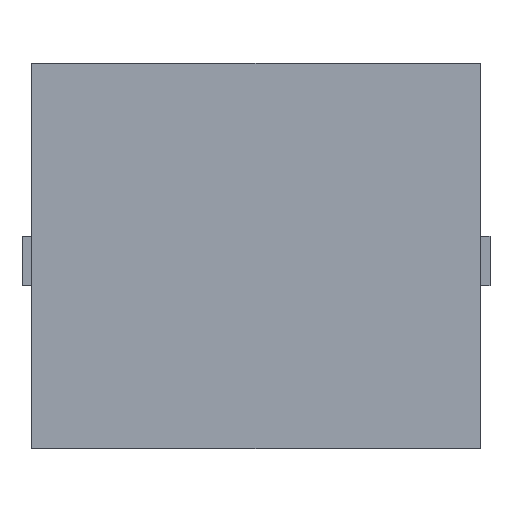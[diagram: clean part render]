
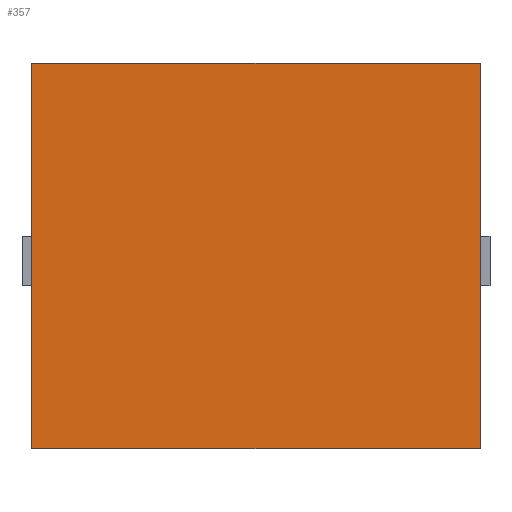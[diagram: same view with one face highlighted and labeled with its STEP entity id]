
A CAD part, top view. The second image highlights one B-rep face of the part: STEP entity #357.
In plain terms, the highlighted planar face has unit normal (0, 0, 1).
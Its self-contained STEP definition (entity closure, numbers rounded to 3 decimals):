
#43 = VERTEX_POINT('',#44);
#44 = CARTESIAN_POINT('',(-6.695,5.75,5.48));
#51 = PLANE('',#52);
#52 = AXIS2_PLACEMENT_3D('',#53,#54,#55);
#53 = CARTESIAN_POINT('',(-6.695,5.75,0.));
#54 = DIRECTION('',(0.,1.,0.));
#55 = DIRECTION('',(1.,0.,0.));
#63 = PLANE('',#64);
#64 = AXIS2_PLACEMENT_3D('',#65,#66,#67);
#65 = CARTESIAN_POINT('',(-6.695,-5.75,0.));
#66 = DIRECTION('',(-1.,0.,0.));
#67 = DIRECTION('',(0.,1.,0.));
#75 = EDGE_CURVE('',#43,#76,#78,.T.);
#76 = VERTEX_POINT('',#77);
#77 = CARTESIAN_POINT('',(6.695,5.75,5.48));
#78 = SURFACE_CURVE('',#79,(#83,#90),.PCURVE_S1.);
#79 = LINE('',#80,#81);
#80 = CARTESIAN_POINT('',(-6.695,5.75,5.48));
#81 = VECTOR('',#82,1.);
#82 = DIRECTION('',(1.,0.,0.));
#83 = PCURVE('',#51,#84);
#84 = DEFINITIONAL_REPRESENTATION('',(#85),#89);
#85 = LINE('',#86,#87);
#86 = CARTESIAN_POINT('',(0.,-5.48));
#87 = VECTOR('',#88,1.);
#88 = DIRECTION('',(1.,0.));
#89 = ( GEOMETRIC_REPRESENTATION_CONTEXT(2) 
PARAMETRIC_REPRESENTATION_CONTEXT() REPRESENTATION_CONTEXT('2D SPACE',''
  ) );
#90 = PCURVE('',#91,#96);
#91 = PLANE('',#92);
#92 = AXIS2_PLACEMENT_3D('',#93,#94,#95);
#93 = CARTESIAN_POINT('',(0.,0.,5.48));
#94 = DIRECTION('',(-0.,-0.,-1.));
#95 = DIRECTION('',(-1.,0.,0.));
#96 = DEFINITIONAL_REPRESENTATION('',(#97),#101);
#97 = LINE('',#98,#99);
#98 = CARTESIAN_POINT('',(6.695,5.75));
#99 = VECTOR('',#100,1.);
#100 = DIRECTION('',(-1.,0.));
#101 = ( GEOMETRIC_REPRESENTATION_CONTEXT(2) 
PARAMETRIC_REPRESENTATION_CONTEXT() REPRESENTATION_CONTEXT('2D SPACE',''
  ) );
#119 = PLANE('',#120);
#120 = AXIS2_PLACEMENT_3D('',#121,#122,#123);
#121 = CARTESIAN_POINT('',(6.695,5.75,0.));
#122 = DIRECTION('',(1.,0.,-0.));
#123 = DIRECTION('',(0.,-1.,0.));
#161 = EDGE_CURVE('',#76,#162,#164,.T.);
#162 = VERTEX_POINT('',#163);
#163 = CARTESIAN_POINT('',(6.695,-5.75,5.48));
#164 = SURFACE_CURVE('',#165,(#169,#176),.PCURVE_S1.);
#165 = LINE('',#166,#167);
#166 = CARTESIAN_POINT('',(6.695,5.75,5.48));
#167 = VECTOR('',#168,1.);
#168 = DIRECTION('',(0.,-1.,0.));
#169 = PCURVE('',#119,#170);
#170 = DEFINITIONAL_REPRESENTATION('',(#171),#175);
#171 = LINE('',#172,#173);
#172 = CARTESIAN_POINT('',(0.,-5.48));
#173 = VECTOR('',#174,1.);
#174 = DIRECTION('',(1.,0.));
#175 = ( GEOMETRIC_REPRESENTATION_CONTEXT(2) 
PARAMETRIC_REPRESENTATION_CONTEXT() REPRESENTATION_CONTEXT('2D SPACE',''
  ) );
#176 = PCURVE('',#91,#177);
#177 = DEFINITIONAL_REPRESENTATION('',(#178),#182);
#178 = LINE('',#179,#180);
#179 = CARTESIAN_POINT('',(-6.695,5.75));
#180 = VECTOR('',#181,1.);
#181 = DIRECTION('',(0.,-1.));
#182 = ( GEOMETRIC_REPRESENTATION_CONTEXT(2) 
PARAMETRIC_REPRESENTATION_CONTEXT() REPRESENTATION_CONTEXT('2D SPACE',''
  ) );
#200 = PLANE('',#201);
#201 = AXIS2_PLACEMENT_3D('',#202,#203,#204);
#202 = CARTESIAN_POINT('',(6.695,-5.75,0.));
#203 = DIRECTION('',(0.,-1.,0.));
#204 = DIRECTION('',(-1.,0.,0.));
#237 = EDGE_CURVE('',#162,#238,#240,.T.);
#238 = VERTEX_POINT('',#239);
#239 = CARTESIAN_POINT('',(-6.695,-5.75,5.48));
#240 = SURFACE_CURVE('',#241,(#245,#252),.PCURVE_S1.);
#241 = LINE('',#242,#243);
#242 = CARTESIAN_POINT('',(6.695,-5.75,5.48));
#243 = VECTOR('',#244,1.);
#244 = DIRECTION('',(-1.,0.,0.));
#245 = PCURVE('',#200,#246);
#246 = DEFINITIONAL_REPRESENTATION('',(#247),#251);
#247 = LINE('',#248,#249);
#248 = CARTESIAN_POINT('',(0.,-5.48));
#249 = VECTOR('',#250,1.);
#250 = DIRECTION('',(1.,0.));
#251 = ( GEOMETRIC_REPRESENTATION_CONTEXT(2) 
PARAMETRIC_REPRESENTATION_CONTEXT() REPRESENTATION_CONTEXT('2D SPACE',''
  ) );
#252 = PCURVE('',#91,#253);
#253 = DEFINITIONAL_REPRESENTATION('',(#254),#258);
#254 = LINE('',#255,#256);
#255 = CARTESIAN_POINT('',(-6.695,-5.75));
#256 = VECTOR('',#257,1.);
#257 = DIRECTION('',(1.,0.));
#258 = ( GEOMETRIC_REPRESENTATION_CONTEXT(2) 
PARAMETRIC_REPRESENTATION_CONTEXT() REPRESENTATION_CONTEXT('2D SPACE',''
  ) );
#308 = EDGE_CURVE('',#238,#43,#309,.T.);
#309 = SURFACE_CURVE('',#310,(#314,#321),.PCURVE_S1.);
#310 = LINE('',#311,#312);
#311 = CARTESIAN_POINT('',(-6.695,-5.75,5.48));
#312 = VECTOR('',#313,1.);
#313 = DIRECTION('',(0.,1.,0.));
#314 = PCURVE('',#63,#315);
#315 = DEFINITIONAL_REPRESENTATION('',(#316),#320);
#316 = LINE('',#317,#318);
#317 = CARTESIAN_POINT('',(0.,-5.48));
#318 = VECTOR('',#319,1.);
#319 = DIRECTION('',(1.,0.));
#320 = ( GEOMETRIC_REPRESENTATION_CONTEXT(2) 
PARAMETRIC_REPRESENTATION_CONTEXT() REPRESENTATION_CONTEXT('2D SPACE',''
  ) );
#321 = PCURVE('',#91,#322);
#322 = DEFINITIONAL_REPRESENTATION('',(#323),#327);
#323 = LINE('',#324,#325);
#324 = CARTESIAN_POINT('',(6.695,-5.75));
#325 = VECTOR('',#326,1.);
#326 = DIRECTION('',(0.,1.));
#327 = ( GEOMETRIC_REPRESENTATION_CONTEXT(2) 
PARAMETRIC_REPRESENTATION_CONTEXT() REPRESENTATION_CONTEXT('2D SPACE',''
  ) );
#357 = ADVANCED_FACE('',(#358),#91,.F.);
#358 = FACE_BOUND('',#359,.F.);
#359 = EDGE_LOOP('',(#360,#361,#362,#363));
#360 = ORIENTED_EDGE('',*,*,#75,.T.);
#361 = ORIENTED_EDGE('',*,*,#161,.T.);
#362 = ORIENTED_EDGE('',*,*,#237,.T.);
#363 = ORIENTED_EDGE('',*,*,#308,.T.);
